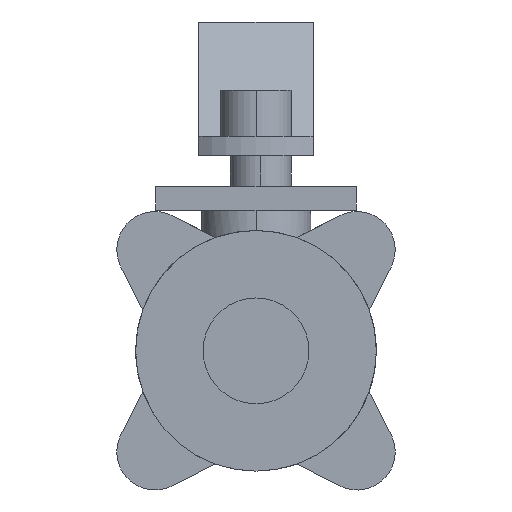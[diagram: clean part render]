
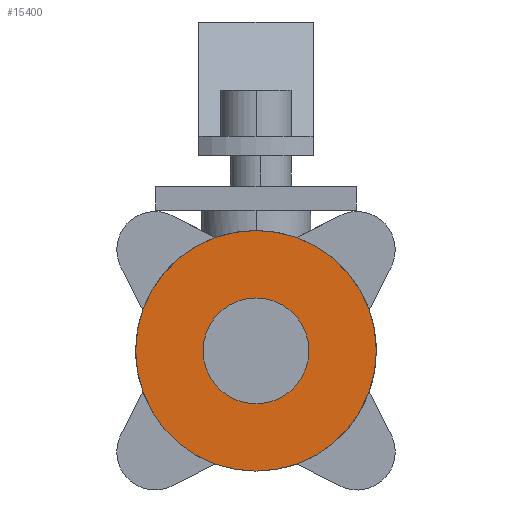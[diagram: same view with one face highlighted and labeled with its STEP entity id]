
A CAD part, left-side view. The second image highlights one B-rep face of the part: STEP entity #15400.
In plain terms, the highlighted planar face has unit normal (-1, 0, 0) as drawn and (1, 0, 0) by its records, which use the part's own axes.
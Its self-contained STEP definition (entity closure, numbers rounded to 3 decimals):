
#12820=CARTESIAN_POINT('',(40.,7.849,
7.849));
#12830=VERTEX_POINT('',#12820);
#12860=CARTESIAN_POINT('',(40.,0.,
0.));
#12870=DIRECTION('',(1.,0.,0.));
#12880=DIRECTION('',(0.,-0.707,
-0.707));
#12890=AXIS2_PLACEMENT_3D('',#12860,#12870,#12880);
#12900=CIRCLE('',#12890,11.1);
#12910=CARTESIAN_POINT('',(40.,-7.849,
-7.849));
#12920=VERTEX_POINT('',#12910);
#12930=EDGE_CURVE('',#12920,#12830,#12900,.T.);
#15150=CARTESIAN_POINT('',(40.,0.,
0.));
#15160=DIRECTION('',(1.,0.,0.));
#15170=DIRECTION('',(0.,-0.707,
-0.707));
#15180=AXIS2_PLACEMENT_3D('',#15150,#15160,#15170);
#15190=PLANE('',#15180);
#15200=CARTESIAN_POINT('',(40.,0.,
0.));
#15210=DIRECTION('',(1.,0.,0.));
#15220=DIRECTION('',(0.,0.707,
0.707));
#15230=AXIS2_PLACEMENT_3D('',#15200,#15210,#15220);
#15240=CIRCLE('',#15230,25.25);
#15250=CARTESIAN_POINT('',(40.,-17.854,
-17.854));
#15260=VERTEX_POINT('',#15250);
#15270=CARTESIAN_POINT('',(40.,17.854,
17.854));
#15280=VERTEX_POINT('',#15270);
#15290=EDGE_CURVE('',#15260,#15280,#15240,.T.);
#15300=ORIENTED_EDGE('',*,*,#15290,.T.);
#15310=EDGE_CURVE('',#15280,#15260,#15240,.T.);
#15320=ORIENTED_EDGE('',*,*,#15310,.T.);
#15330=EDGE_LOOP('',(#15320,#15300));
#15340=FACE_OUTER_BOUND('',#15330,.T.);
#15350=EDGE_CURVE('',#12830,#12920,#12900,.T.);
#15360=ORIENTED_EDGE('',*,*,#15350,.F.);
#15370=ORIENTED_EDGE('',*,*,#12930,.F.);
#15380=EDGE_LOOP('',(#15370,#15360));
#15390=FACE_BOUND('',#15380,.T.);
#15400=ADVANCED_FACE('',(#15340,#15390),#15190,.T.);
